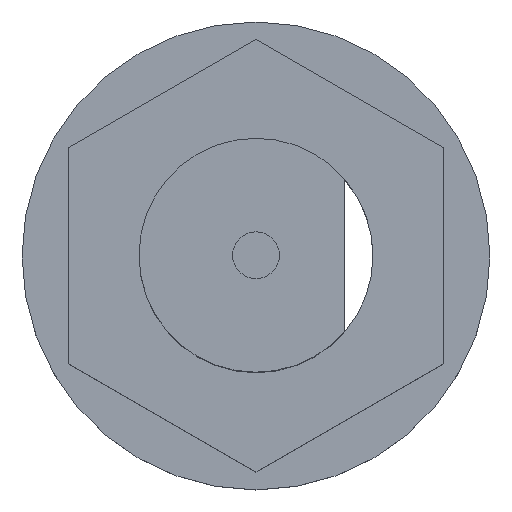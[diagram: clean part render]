
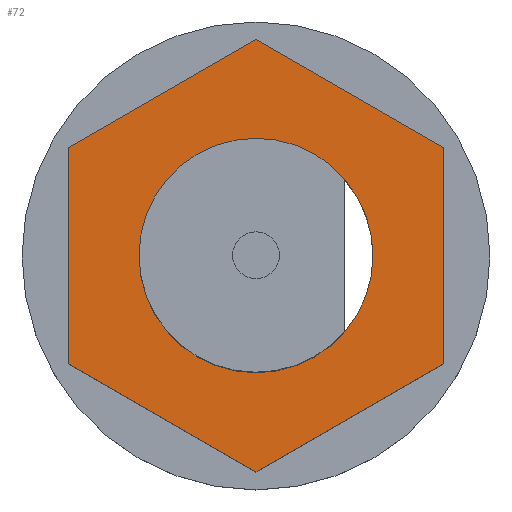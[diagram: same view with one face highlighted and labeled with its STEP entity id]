
A CAD part, top view. The second image highlights one B-rep face of the part: STEP entity #72.
In plain terms, the highlighted planar face has unit normal (0, 0, 1) as drawn and (-1, 0, 0) by its records, which use the part's own axes.
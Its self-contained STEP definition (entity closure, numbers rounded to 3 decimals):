
#59 = EDGE_CURVE ( 'NONE', #60, #61, #1035, .T. ) ;
#60 = VERTEX_POINT ( 'NONE', #981 ) ;
#61 = VERTEX_POINT ( 'NONE', #980 ) ;
#72 = ADVANCED_FACE ( 'NONE', ( #888, #887 ), #886, .F. ) ;
#81 = ORIENTED_EDGE ( 'NONE', *, *, #59, .F. ) ;
#86 = EDGE_CURVE ( 'NONE', #61, #60, #926, .T. ) ;
#88 = EDGE_CURVE ( 'NONE', #138, #124, #1012, .T. ) ;
#89 = VERTEX_POINT ( 'NONE', #1008 ) ;
#97 = ORIENTED_EDGE ( 'NONE', *, *, #86, .F. ) ;
#102 = ORIENTED_EDGE ( 'NONE', *, *, #120, .T. ) ;
#103 = EDGE_CURVE ( 'NONE', #111, #104, #1042, .T. ) ;
#104 = VERTEX_POINT ( 'NONE', #1045 ) ;
#111 = VERTEX_POINT ( 'NONE', #186 ) ;
#116 = ORIENTED_EDGE ( 'NONE', *, *, #121, .T. ) ;
#120 = EDGE_CURVE ( 'NONE', #124, #139, #170, .T. ) ;
#121 = EDGE_CURVE ( 'NONE', #89, #111, #166, .T. ) ;
#123 = EDGE_CURVE ( 'NONE', #139, #89, #224, .T. ) ;
#124 = VERTEX_POINT ( 'NONE', #220 ) ;
#125 = ORIENTED_EDGE ( 'NONE', *, *, #123, .T. ) ;
#127 = EDGE_CURVE ( 'NONE', #104, #138, #219, .T. ) ;
#128 = EDGE_LOOP ( 'NONE', ( #81, #97 ) ) ;
#131 = ORIENTED_EDGE ( 'NONE', *, *, #127, .T. ) ;
#134 = ORIENTED_EDGE ( 'NONE', *, *, #103, .T. ) ;
#138 = VERTEX_POINT ( 'NONE', #207 ) ;
#139 = VERTEX_POINT ( 'NONE', #206 ) ;
#140 = ORIENTED_EDGE ( 'NONE', *, *, #88, .T. ) ;
#163 = DIRECTION ( 'NONE',  ( 0., 0.5, 0.866 ) ) ;
#164 = VECTOR ( 'NONE', #163, 1000. ) ;
#165 = CARTESIAN_POINT ( 'NONE',  ( 6., -4.619, 0. ) ) ;
#166 = LINE ( 'NONE', #165, #164 ) ;
#167 = DIRECTION ( 'NONE',  ( 0., -1., 0. ) ) ;
#168 = VECTOR ( 'NONE', #167, 1000. ) ;
#169 = CARTESIAN_POINT ( 'NONE',  ( 6., 2.309, -4. ) ) ;
#170 = LINE ( 'NONE', #169, #168 ) ;
#186 = CARTESIAN_POINT ( 'NONE',  ( 6., -2.309, 4. ) ) ;
#206 = CARTESIAN_POINT ( 'NONE',  ( 6., -2.309, -4. ) ) ;
#207 = CARTESIAN_POINT ( 'NONE',  ( 6., 4.619, 0. ) ) ;
#216 = DIRECTION ( 'NONE',  ( 0., 0.5, -0.866 ) ) ;
#217 = VECTOR ( 'NONE', #216, 1000. ) ;
#218 = CARTESIAN_POINT ( 'NONE',  ( 6., 2.309, 4. ) ) ;
#219 = LINE ( 'NONE', #218, #217 ) ;
#220 = CARTESIAN_POINT ( 'NONE',  ( 6., 2.309, -4. ) ) ;
#221 = DIRECTION ( 'NONE',  ( 0., -0.5, 0.866 ) ) ;
#222 = VECTOR ( 'NONE', #221, 1000. ) ;
#223 = CARTESIAN_POINT ( 'NONE',  ( 6., -2.309, -4. ) ) ;
#224 = LINE ( 'NONE', #223, #222 ) ;
#882 = DIRECTION ( 'NONE',  ( 0., 0.5, -0.866 ) ) ;
#883 = DIRECTION ( 'NONE',  ( 1., 0., 0. ) ) ;
#884 = CARTESIAN_POINT ( 'NONE',  ( 6., 6.928, 4. ) ) ;
#885 = AXIS2_PLACEMENT_3D ( 'NONE', #884, #883, #882 ) ;
#886 = PLANE ( 'NONE',  #885 ) ;
#887 = FACE_BOUND ( 'NONE', #128, .T. ) ;
#888 = FACE_OUTER_BOUND ( 'NONE', #1362, .T. ) ;
#922 = DIRECTION ( 'NONE',  ( 0., -0.5, 0.866 ) ) ;
#923 = DIRECTION ( 'NONE',  ( -1., 0., 0. ) ) ;
#924 = CARTESIAN_POINT ( 'NONE',  ( 6., 0., 0. ) ) ;
#925 = AXIS2_PLACEMENT_3D ( 'NONE', #924, #923, #922 ) ;
#926 = CIRCLE ( 'NONE', #925, 2.5 ) ;
#980 = CARTESIAN_POINT ( 'NONE',  ( 6., -1.25, 2.165 ) ) ;
#981 = CARTESIAN_POINT ( 'NONE',  ( 6., 1.25, -2.165 ) ) ;
#982 = DIRECTION ( 'NONE',  ( 0., -0.5, 0.866 ) ) ;
#983 = DIRECTION ( 'NONE',  ( -1., 0., 0. ) ) ;
#984 = CARTESIAN_POINT ( 'NONE',  ( 6., 0., 0. ) ) ;
#985 = AXIS2_PLACEMENT_3D ( 'NONE', #984, #983, #982 ) ;
#1008 = CARTESIAN_POINT ( 'NONE',  ( 6., -4.619, 0. ) ) ;
#1009 = DIRECTION ( 'NONE',  ( 0., -0.5, -0.866 ) ) ;
#1010 = VECTOR ( 'NONE', #1009, 1000. ) ;
#1011 = CARTESIAN_POINT ( 'NONE',  ( 6., 4.619, 0. ) ) ;
#1012 = LINE ( 'NONE', #1011, #1010 ) ;
#1035 = CIRCLE ( 'NONE', #985, 2.5 ) ;
#1041 = CARTESIAN_POINT ( 'NONE',  ( 6., -2.309, 4. ) ) ;
#1042 = LINE ( 'NONE', #1041, #1049 ) ;
#1045 = CARTESIAN_POINT ( 'NONE',  ( 6., 2.309, 4. ) ) ;
#1046 = DIRECTION ( 'NONE',  ( 0., 1., 0. ) ) ;
#1049 = VECTOR ( 'NONE', #1046, 1000. ) ;
#1362 = EDGE_LOOP ( 'NONE', ( #140, #102, #125, #116, #134, #131 ) ) ;
